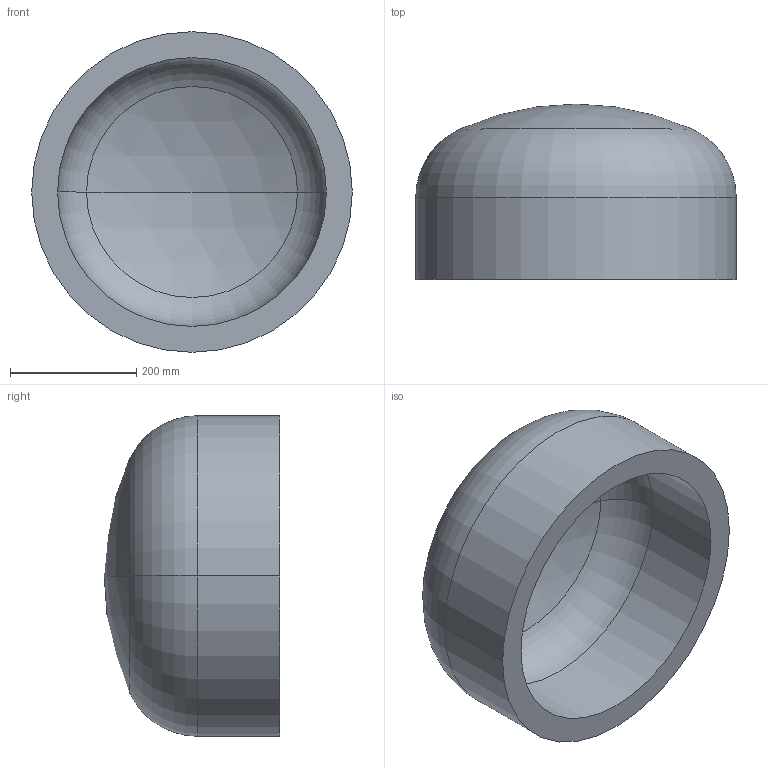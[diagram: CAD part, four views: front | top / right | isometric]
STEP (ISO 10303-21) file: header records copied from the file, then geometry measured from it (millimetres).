
FILE_DESCRIPTION (( 'STEP AP203' ), '1' );
FILE_NAME ('DIN 28013 Korbbogenform_-_Boden DIN 28013 - 508 x 130 - I - s=41.step', '2016-07-01T07:54:47', ( '' ), ( '' ), 'SwSTEP 2.0', 'SolidWorks 2013', '' );
FILE_SCHEMA (( 'CONFIG_CONTROL_DESIGN' ));
Length unit declared in the file: millimetre
Products named in the file (1): DIN 28013 Korbbogenform_-_Boden DIN 28013 - 508 x 130 - I - s=41
Bounding box: 508 x 278.07 x 508 mm (x, y, z)
Volume: 18214655.6 mm3; surface area: 952192.4 mm2
Topology: 1 solids, 1 shells, 13 faces, 24 edges, 14 vertices
Faces by surface type: torus 4, cylinder 4, sphere 4, plane 1
Entity records: 407 total; most frequent: DIRECTION 72, CARTESIAN_POINT 52, ORIENTED_EDGE 48, AXIS2_PLACEMENT_3D 34, EDGE_CURVE 24, CIRCLE 20, VERTEX_POINT 14, EDGE_LOOP 14
